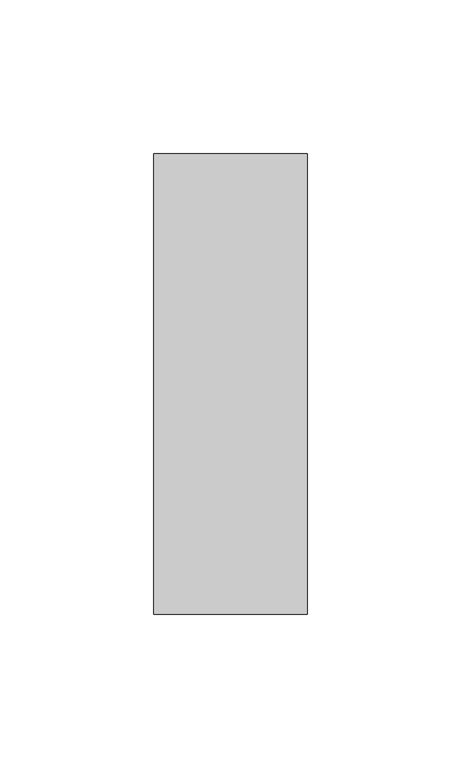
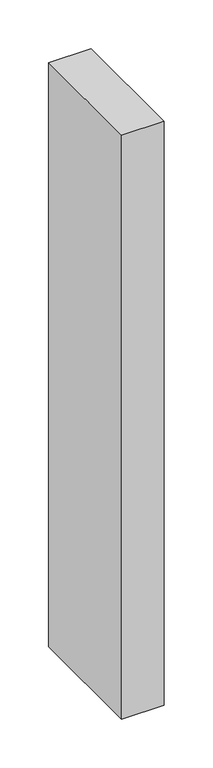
"""IFC4 building model written with IfcOpenShell, lengths in millimetres: member geometry, Прямоугольный импост : 50 x 150 мм."""

from ifc_helpers import new_model, si_unit, frame, origin, place, context, project, spatial, polyline, outline, extrude, source, transform, mapped, element, save


def member_0f3bc820(model_context):
    return source(origin(), model_context, "Body", "SweptSolid", [
        extrude(outline(polyline([(25.0, 75.0), (25.0, -75.0), (-25.0, -75.0), (-25.0, 75.0), (25.0, 75.0)])), frame((0.0, 0.0, -730.2920503), z_axis=(0.0, 0.0, 1.0), x_axis=(1.0, 0.0, 0.0)), (0.0, 0.0, 1.0), 730.2920503),
    ])


if __name__ == "__main__":
    model = new_model("IFC4")
    model_context = context("Model", 3, world=origin())
    ifc_project = project(units=[si_unit("LENGTHUNIT", "METRE", prefix="MILLI")], contexts=[model_context])
    site = spatial("IfcSite", under=ifc_project)
    building = spatial("IfcBuilding", under=site)
    placement = place(None, origin())
    member_shape = member_0f3bc820(model_context)
    element("IfcMember", 1, ObjectType="Прямоугольный импост : 50 x 150 мм", at=placement, inside=building, context=model_context, shape_type="MappedRepresentation", body=[
        mapped(member_shape, transform((0.0, 0.0, 0.0), x_axis=(1.0, 0.0, 0.0), y_axis=(0.0, 1.0, 0.0), z_axis=(0.0, 0.0, 1.0))),
    ])
    save(model, "model.ifc")
